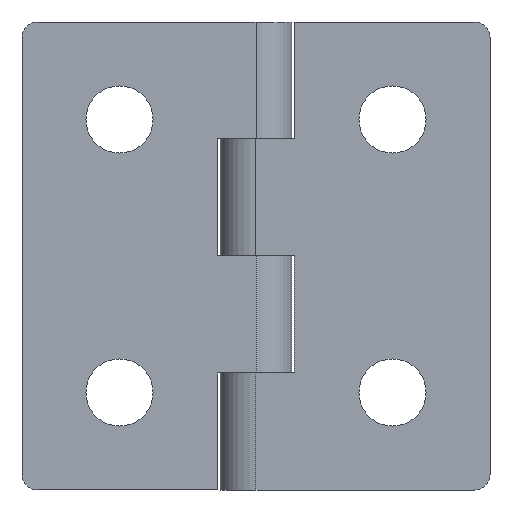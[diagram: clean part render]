
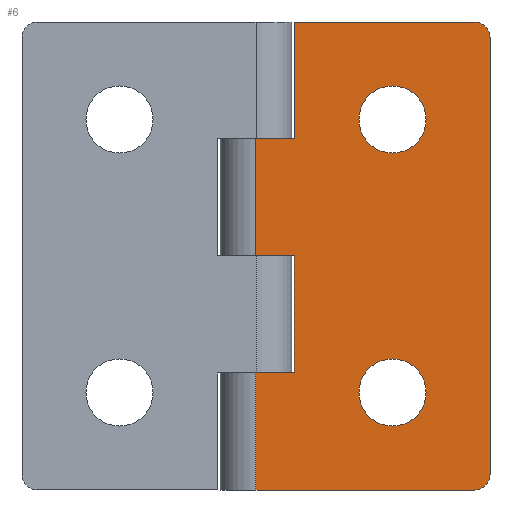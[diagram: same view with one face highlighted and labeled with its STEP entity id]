
A CAD part, front view. The second image highlights one B-rep face of the part: STEP entity #6.
In plain terms, the highlighted planar face has unit normal (0, -1, 0).
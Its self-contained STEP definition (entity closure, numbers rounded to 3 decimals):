
#4 = LINE ( 'NONE', #1381, #188 ) ;
#5 = ORIENTED_EDGE ( 'NONE', *, *, #1081, .F. ) ;
#6 = ADVANCED_FACE ( 'NONE', ( #352, #1323, #907 ), #456, .F. ) ;
#10 = DIRECTION ( 'NONE',  ( 0., -1., 0. ) ) ;
#37 = EDGE_CURVE ( 'NONE', #576, #1117, #473, .T. ) ;
#39 = ORIENTED_EDGE ( 'NONE', *, *, #477, .T. ) ;
#55 = CARTESIAN_POINT ( 'NONE',  ( 4.9, 0., 0. ) ) ;
#83 = DIRECTION ( 'NONE',  ( 0., 1., 0. ) ) ;
#84 = ORIENTED_EDGE ( 'NONE', *, *, #1308, .T. ) ;
#92 = VECTOR ( 'NONE', #906, 1000. ) ;
#95 = DIRECTION ( 'NONE',  ( 0., 0., 1. ) ) ;
#129 = EDGE_LOOP ( 'NONE', ( #310, #1208 ) ) ;
#132 = LINE ( 'NONE', #683, #92 ) ;
#134 = ORIENTED_EDGE ( 'NONE', *, *, #470, .T. ) ;
#141 = VECTOR ( 'NONE', #203, 1000. ) ;
#142 = VECTOR ( 'NONE', #357, 1000. ) ;
#148 = EDGE_CURVE ( 'NONE', #1354, #227, #1030, .T. ) ;
#156 = CARTESIAN_POINT ( 'NONE',  ( 0., 0., -15. ) ) ;
#158 = VERTEX_POINT ( 'NONE', #1154 ) ;
#161 = VECTOR ( 'NONE', #662, 1000. ) ;
#173 = EDGE_CURVE ( 'NONE', #240, #1139, #705, .T. ) ;
#183 = ORIENTED_EDGE ( 'NONE', *, *, #210, .T. ) ;
#186 = AXIS2_PLACEMENT_3D ( 'NONE', #919, #901, #1129 ) ;
#188 = VECTOR ( 'NONE', #1280, 1000. ) ;
#192 = VERTEX_POINT ( 'NONE', #845 ) ;
#203 = DIRECTION ( 'NONE',  ( 1., 0., 0. ) ) ;
#205 = DIRECTION ( 'NONE',  ( 0., 1., 0. ) ) ;
#210 = EDGE_CURVE ( 'NONE', #227, #757, #619, .T. ) ;
#217 = DIRECTION ( 'NONE',  ( 0., -1., 0. ) ) ;
#227 = VERTEX_POINT ( 'NONE', #814 ) ;
#240 = VERTEX_POINT ( 'NONE', #283 ) ;
#249 = CARTESIAN_POINT ( 'NONE',  ( 17.5, 0., 21.8 ) ) ;
#262 = LINE ( 'NONE', #1311, #663 ) ;
#276 = DIRECTION ( 'NONE',  ( -1., 0., 0. ) ) ;
#283 = CARTESIAN_POINT ( 'NONE',  ( 17.5, 0., 13.2 ) ) ;
#308 = EDGE_CURVE ( 'NONE', #158, #607, #971, .T. ) ;
#310 = ORIENTED_EDGE ( 'NONE', *, *, #1300, .T. ) ;
#312 = EDGE_CURVE ( 'NONE', #1103, #192, #1074, .T. ) ;
#324 = VERTEX_POINT ( 'NONE', #1307 ) ;
#340 = CARTESIAN_POINT ( 'NONE',  ( 17.5, 0., -17.5 ) ) ;
#352 = FACE_BOUND ( 'NONE', #129, .T. ) ;
#357 = DIRECTION ( 'NONE',  ( 0., 0., -1. ) ) ;
#361 = ORIENTED_EDGE ( 'NONE', *, *, #173, .T. ) ;
#404 = CARTESIAN_POINT ( 'NONE',  ( 17.5, 0., 17.5 ) ) ;
#407 = EDGE_CURVE ( 'NONE', #324, #158, #4, .T. ) ;
#439 = VECTOR ( 'NONE', #608, 1000. ) ;
#442 = CARTESIAN_POINT ( 'NONE',  ( 30., 0., -28. ) ) ;
#445 = CARTESIAN_POINT ( 'NONE',  ( 17.5, 0., -21.8 ) ) ;
#448 = LINE ( 'NONE', #1100, #142 ) ;
#453 = DIRECTION ( 'NONE',  ( 0., 0., -1. ) ) ;
#455 = AXIS2_PLACEMENT_3D ( 'NONE', #606, #83, #1034 ) ;
#456 = PLANE ( 'NONE',  #186 ) ;
#470 = EDGE_CURVE ( 'NONE', #1103, #324, #132, .T. ) ;
#473 = LINE ( 'NONE', #1329, #1065 ) ;
#477 = EDGE_CURVE ( 'NONE', #543, #192, #1202, .T. ) ;
#478 = CARTESIAN_POINT ( 'NONE',  ( 0., 0., -30. ) ) ;
#506 = CARTESIAN_POINT ( 'NONE',  ( 0., 0., 0. ) ) ;
#535 = CARTESIAN_POINT ( 'NONE',  ( 4.9, 0., 0. ) ) ;
#543 = VERTEX_POINT ( 'NONE', #1339 ) ;
#553 = CIRCLE ( 'NONE', #1251, 2. ) ;
#561 = ORIENTED_EDGE ( 'NONE', *, *, #37, .T. ) ;
#576 = VERTEX_POINT ( 'NONE', #478 ) ;
#579 = DIRECTION ( 'NONE',  ( 0., 0., 1. ) ) ;
#590 = ORIENTED_EDGE ( 'NONE', *, *, #1348, .T. ) ;
#595 = AXIS2_PLACEMENT_3D ( 'NONE', #808, #10, #990 ) ;
#606 = CARTESIAN_POINT ( 'NONE',  ( 17.5, 0., 17.5 ) ) ;
#607 = VERTEX_POINT ( 'NONE', #506 ) ;
#608 = DIRECTION ( 'NONE',  ( 1., 0., 0. ) ) ;
#613 = CARTESIAN_POINT ( 'NONE',  ( 17.5, 0., -17.5 ) ) ;
#619 = LINE ( 'NONE', #1136, #823 ) ;
#620 = VERTEX_POINT ( 'NONE', #445 ) ;
#624 = CARTESIAN_POINT ( 'NONE',  ( 17.5, 0., -13.2 ) ) ;
#630 = DIRECTION ( 'NONE',  ( 0., 0., 1. ) ) ;
#641 = CARTESIAN_POINT ( 'NONE',  ( 0., 0., 30. ) ) ;
#652 = ORIENTED_EDGE ( 'NONE', *, *, #308, .T. ) ;
#662 = DIRECTION ( 'NONE',  ( 0., 0., -1. ) ) ;
#663 = VECTOR ( 'NONE', #453, 1000. ) ;
#665 = ORIENTED_EDGE ( 'NONE', *, *, #973, .T. ) ;
#672 = ORIENTED_EDGE ( 'NONE', *, *, #1047, .T. ) ;
#683 = CARTESIAN_POINT ( 'NONE',  ( 4.9, 0., 30. ) ) ;
#687 = EDGE_LOOP ( 'NONE', ( #134, #926, #652, #84, #736, #183, #672, #561, #665, #5, #39, #968 ) ) ;
#689 = CIRCLE ( 'NONE', #923, 4.3 ) ;
#705 = CIRCLE ( 'NONE', #455, 4.3 ) ;
#736 = ORIENTED_EDGE ( 'NONE', *, *, #148, .T. ) ;
#737 = CARTESIAN_POINT ( 'NONE',  ( -4.6, 0., 0. ) ) ;
#757 = VERTEX_POINT ( 'NONE', #156 ) ;
#795 = DIRECTION ( 'NONE',  ( 0., 1., 0. ) ) ;
#808 = CARTESIAN_POINT ( 'NONE',  ( 28., 0., 28. ) ) ;
#814 = CARTESIAN_POINT ( 'NONE',  ( 4.9, 0., -15. ) ) ;
#823 = VECTOR ( 'NONE', #276, 1000. ) ;
#840 = VERTEX_POINT ( 'NONE', #442 ) ;
#842 = DIRECTION ( 'NONE',  ( 0., 0., 1. ) ) ;
#845 = CARTESIAN_POINT ( 'NONE',  ( 28., 0., 30. ) ) ;
#901 = DIRECTION ( 'NONE',  ( 0., 1., 0. ) ) ;
#902 = VERTEX_POINT ( 'NONE', #624 ) ;
#906 = DIRECTION ( 'NONE',  ( 0., 0., -1. ) ) ;
#907 = FACE_OUTER_BOUND ( 'NONE', #687, .T. ) ;
#916 = CARTESIAN_POINT ( 'NONE',  ( 4.9, 0., 30. ) ) ;
#919 = CARTESIAN_POINT ( 'NONE',  ( 0., 0., 30. ) ) ;
#923 = AXIS2_PLACEMENT_3D ( 'NONE', #613, #938, #95 ) ;
#926 = ORIENTED_EDGE ( 'NONE', *, *, #407, .T. ) ;
#938 = DIRECTION ( 'NONE',  ( 0., 1., 0. ) ) ;
#948 = LINE ( 'NONE', #737, #439 ) ;
#956 = EDGE_LOOP ( 'NONE', ( #590, #361 ) ) ;
#968 = ORIENTED_EDGE ( 'NONE', *, *, #312, .F. ) ;
#971 = LINE ( 'NONE', #641, #161 ) ;
#973 = EDGE_CURVE ( 'NONE', #1117, #840, #553, .T. ) ;
#990 = DIRECTION ( 'NONE',  ( 0., 0., 1. ) ) ;
#1024 = CIRCLE ( 'NONE', #1386, 4.3 ) ;
#1030 = LINE ( 'NONE', #55, #1178 ) ;
#1034 = DIRECTION ( 'NONE',  ( 0., 0., 1. ) ) ;
#1047 = EDGE_CURVE ( 'NONE', #757, #576, #448, .T. ) ;
#1065 = VECTOR ( 'NONE', #1340, 1000. ) ;
#1074 = LINE ( 'NONE', #1197, #141 ) ;
#1081 = EDGE_CURVE ( 'NONE', #543, #840, #262, .T. ) ;
#1100 = CARTESIAN_POINT ( 'NONE',  ( 0., 0., 30. ) ) ;
#1103 = VERTEX_POINT ( 'NONE', #916 ) ;
#1108 = EDGE_CURVE ( 'NONE', #620, #902, #1024, .T. ) ;
#1117 = VERTEX_POINT ( 'NONE', #1319 ) ;
#1129 = DIRECTION ( 'NONE',  ( 0., 0., 1. ) ) ;
#1136 = CARTESIAN_POINT ( 'NONE',  ( -4.6, 0., -15. ) ) ;
#1138 = AXIS2_PLACEMENT_3D ( 'NONE', #404, #205, #842 ) ;
#1139 = VERTEX_POINT ( 'NONE', #249 ) ;
#1154 = CARTESIAN_POINT ( 'NONE',  ( 0., 0., 15. ) ) ;
#1162 = CIRCLE ( 'NONE', #1138, 4.3 ) ;
#1178 = VECTOR ( 'NONE', #1375, 1000. ) ;
#1197 = CARTESIAN_POINT ( 'NONE',  ( 0., 0., 30. ) ) ;
#1202 = CIRCLE ( 'NONE', #595, 2. ) ;
#1208 = ORIENTED_EDGE ( 'NONE', *, *, #1108, .T. ) ;
#1251 = AXIS2_PLACEMENT_3D ( 'NONE', #1278, #217, #630 ) ;
#1278 = CARTESIAN_POINT ( 'NONE',  ( 28., 0., -28. ) ) ;
#1280 = DIRECTION ( 'NONE',  ( -1., 0., 0. ) ) ;
#1300 = EDGE_CURVE ( 'NONE', #902, #620, #689, .T. ) ;
#1307 = CARTESIAN_POINT ( 'NONE',  ( 4.9, 0., 15. ) ) ;
#1308 = EDGE_CURVE ( 'NONE', #607, #1354, #948, .T. ) ;
#1311 = CARTESIAN_POINT ( 'NONE',  ( 30., 0., 30. ) ) ;
#1319 = CARTESIAN_POINT ( 'NONE',  ( 28., 0., -30. ) ) ;
#1323 = FACE_BOUND ( 'NONE', #956, .T. ) ;
#1329 = CARTESIAN_POINT ( 'NONE',  ( 0., 0., -30. ) ) ;
#1339 = CARTESIAN_POINT ( 'NONE',  ( 30., 0., 28. ) ) ;
#1340 = DIRECTION ( 'NONE',  ( 1., 0., 0. ) ) ;
#1348 = EDGE_CURVE ( 'NONE', #1139, #240, #1162, .T. ) ;
#1354 = VERTEX_POINT ( 'NONE', #535 ) ;
#1375 = DIRECTION ( 'NONE',  ( 0., 0., -1. ) ) ;
#1381 = CARTESIAN_POINT ( 'NONE',  ( -4.6, 0., 15. ) ) ;
#1386 = AXIS2_PLACEMENT_3D ( 'NONE', #340, #795, #579 ) ;
